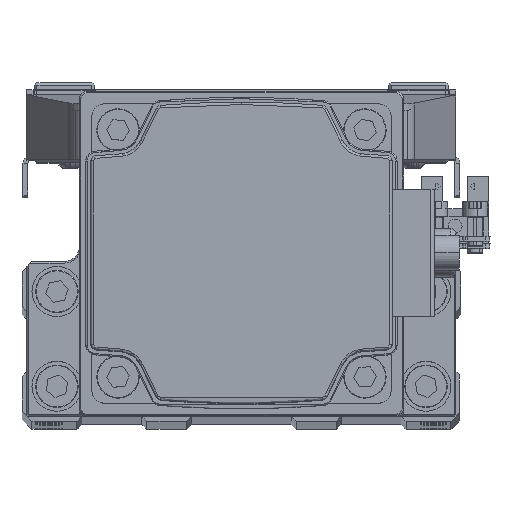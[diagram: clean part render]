
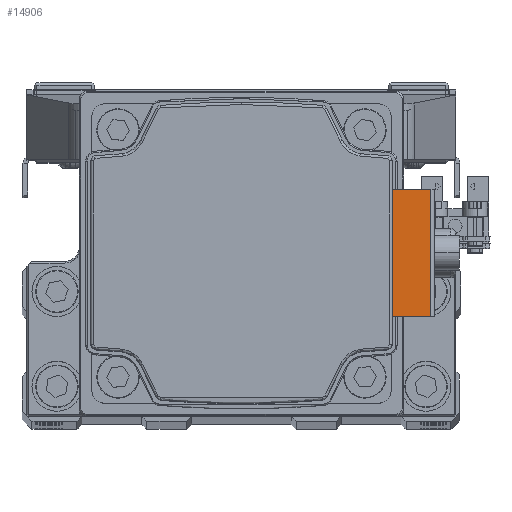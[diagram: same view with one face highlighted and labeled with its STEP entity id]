
A CAD part, top view. The second image highlights one B-rep face of the part: STEP entity #14906.
In plain terms, the highlighted planar face has unit normal (0, 0, 1) as drawn and (0, 0, -1) by its records, which use the part's own axes.
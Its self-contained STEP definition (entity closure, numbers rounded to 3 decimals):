
#625 = DIRECTION ( 'NONE',  ( 0., 1., 0. ) ) ;
#2545 = CARTESIAN_POINT ( 'NONE',  ( 0., 37.9, -88.696 ) ) ;
#4701 = VERTEX_POINT ( 'NONE', #20416 ) ;
#6131 = VERTEX_POINT ( 'NONE', #37577 ) ;
#7179 = VECTOR ( 'NONE', #13472, 1000. ) ;
#7646 = CARTESIAN_POINT ( 'NONE',  ( -12.75, 37.9, -88.696 ) ) ;
#8961 = CARTESIAN_POINT ( 'NONE',  ( 12.75, 30.2, -88.696 ) ) ;
#11224 = ORIENTED_EDGE ( 'NONE', *, *, #19048, .T. ) ;
#11417 = LINE ( 'NONE', #26571, #18525 ) ;
#11476 = EDGE_CURVE ( 'NONE', #6131, #22511, #11417, .T. ) ;
#11621 = ORIENTED_EDGE ( 'NONE', *, *, #11476, .F. ) ;
#13472 = DIRECTION ( 'NONE',  ( 1., 0., 0. ) ) ;
#14906 = ADVANCED_FACE ( 'NONE', ( #21443 ), #36622, .T. ) ;
#17729 = DIRECTION ( 'NONE',  ( 0., 0., -1. ) ) ;
#18525 = VECTOR ( 'NONE', #41722, 1000. ) ;
#18773 = VECTOR ( 'NONE', #22797, 1000. ) ;
#19048 = EDGE_CURVE ( 'NONE', #4701, #33644, #32364, .T. ) ;
#19529 = LINE ( 'NONE', #34694, #21313 ) ;
#20416 = CARTESIAN_POINT ( 'NONE',  ( -12.75, 37.9, -88.696 ) ) ;
#21044 = EDGE_LOOP ( 'NONE', ( #32393, #11224, #32327, #11621 ) ) ;
#21313 = VECTOR ( 'NONE', #625, 1000. ) ;
#21443 = FACE_OUTER_BOUND ( 'NONE', #21044, .T. ) ;
#22033 = EDGE_CURVE ( 'NONE', #22511, #33644, #19529, .T. ) ;
#22511 = VERTEX_POINT ( 'NONE', #8961 ) ;
#22797 = DIRECTION ( 'NONE',  ( 0., 1., 0. ) ) ;
#26571 = CARTESIAN_POINT ( 'NONE',  ( 18.438, 30.2, -88.696 ) ) ;
#29068 = EDGE_CURVE ( 'NONE', #6131, #4701, #41697, .T. ) ;
#32327 = ORIENTED_EDGE ( 'NONE', *, *, #22033, .F. ) ;
#32364 = LINE ( 'NONE', #47511, #7179 ) ;
#32393 = ORIENTED_EDGE ( 'NONE', *, *, #29068, .T. ) ;
#32895 = DIRECTION ( 'NONE',  ( -1., 0., 0. ) ) ;
#33644 = VERTEX_POINT ( 'NONE', #43087 ) ;
#34694 = CARTESIAN_POINT ( 'NONE',  ( 12.75, 33.991, -88.696 ) ) ;
#36622 = PLANE ( 'NONE',  #41686 ) ;
#37577 = CARTESIAN_POINT ( 'NONE',  ( -12.75, 30.2, -88.696 ) ) ;
#41686 = AXIS2_PLACEMENT_3D ( 'NONE', #2545, #17729, #32895 ) ;
#41697 = LINE ( 'NONE', #7646, #18773 ) ;
#41722 = DIRECTION ( 'NONE',  ( 1., 0., 0. ) ) ;
#43087 = CARTESIAN_POINT ( 'NONE',  ( 12.75, 37.9, -88.696 ) ) ;
#47511 = CARTESIAN_POINT ( 'NONE',  ( 0., 37.9, -88.696 ) ) ;
